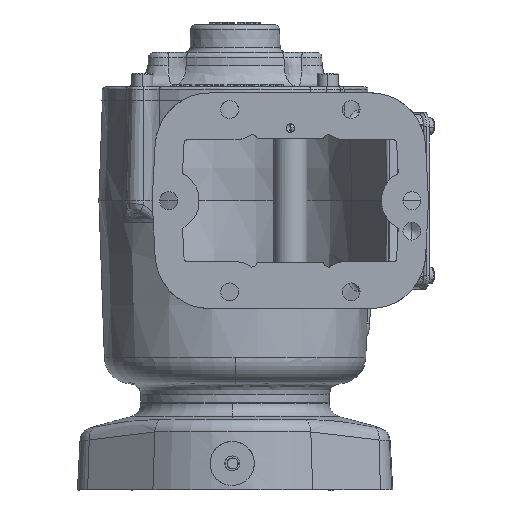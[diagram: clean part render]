
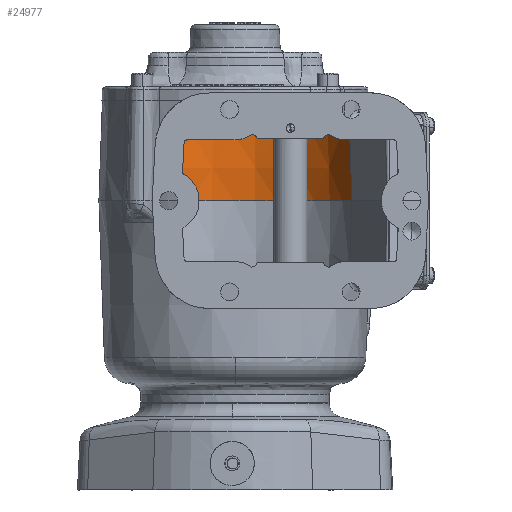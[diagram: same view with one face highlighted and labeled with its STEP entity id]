
A CAD part, front view. The second image highlights one B-rep face of the part: STEP entity #24977.
In plain terms, the highlighted conical face has half-angle 2 degrees and reference radius 71.882 mm.
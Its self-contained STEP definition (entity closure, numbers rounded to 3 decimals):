
#9148 = CARTESIAN_POINT ( 'NONE',  ( -31.75, 84.572, 0. ) ) ;
#9695 = EDGE_CURVE ( 'NONE', #85560, #34427, #14403, .T. ) ;
#14403 = CIRCLE ( 'NONE', #35133, 70.552 ) ;
#18736 = CARTESIAN_POINT ( 'NONE',  ( -31.75, 84.572, 38.1 ) ) ;
#18776 = ORIENTED_EDGE ( 'NONE', *, *, #76619, .T. ) ;
#19164 = FACE_OUTER_BOUND ( 'NONE', #60968, .T. ) ;
#19170 = CARTESIAN_POINT ( 'NONE',  ( 35.358, 110.332, 0. ) ) ;
#23592 = CONICAL_SURFACE ( 'NONE', #48131, 71.882, 0.035 ) ;
#24710 = EDGE_CURVE ( 'NONE', #34427, #105170, #48203, .T. ) ;
#24977 = ADVANCED_FACE ( 'NONE', ( #19164 ), #23592, .F. ) ;
#34427 = VERTEX_POINT ( 'NONE', #47992 ) ;
#35133 = AXIS2_PLACEMENT_3D ( 'NONE', #18736, #35868, #44729 ) ;
#35868 = DIRECTION ( 'NONE',  ( 0., 0., -1. ) ) ;
#36450 = CARTESIAN_POINT ( 'NONE',  ( -31.75, 84.572, 0. ) ) ;
#42346 = CARTESIAN_POINT ( 'NONE',  ( -103.632, 84.572, 0. ) ) ;
#44729 = DIRECTION ( 'NONE',  ( -1., 0., 0. ) ) ;
#46914 = DIRECTION ( 'NONE',  ( -1., 0., 0. ) ) ;
#47992 = CARTESIAN_POINT ( 'NONE',  ( 34.116, 109.855, 38.1 ) ) ;
#48131 = AXIS2_PLACEMENT_3D ( 'NONE', #9148, #110708, #46914 ) ;
#48203 = LINE ( 'NONE', #81919, #114188 ) ;
#55249 = VERTEX_POINT ( 'NONE', #42346 ) ;
#56993 = LINE ( 'NONE', #101890, #101669 ) ;
#60968 = EDGE_LOOP ( 'NONE', ( #112622, #18776, #64963, #89342 ) ) ;
#64756 = DIRECTION ( 'NONE',  ( 0.033, 0.013, -0.999 ) ) ;
#64963 = ORIENTED_EDGE ( 'NONE', *, *, #79913, .T. ) ;
#65986 = AXIS2_PLACEMENT_3D ( 'NONE', #36450, #103139, #109714 ) ;
#68991 = CARTESIAN_POINT ( 'NONE',  ( -102.302, 84.572, 38.1 ) ) ;
#76619 = EDGE_CURVE ( 'NONE', #85560, #55249, #56993, .T. ) ;
#79913 = EDGE_CURVE ( 'NONE', #55249, #105170, #101838, .T. ) ;
#81919 = CARTESIAN_POINT ( 'NONE',  ( 34.737, 110.094, 19.05 ) ) ;
#84761 = DIRECTION ( 'NONE',  ( -0.035, 0., -0.999 ) ) ;
#85560 = VERTEX_POINT ( 'NONE', #68991 ) ;
#89342 = ORIENTED_EDGE ( 'NONE', *, *, #24710, .F. ) ;
#101669 = VECTOR ( 'NONE', #84761, 1000. ) ;
#101838 = CIRCLE ( 'NONE', #65986, 71.882 ) ;
#101890 = CARTESIAN_POINT ( 'NONE',  ( -103.632, 84.572, 0. ) ) ;
#103139 = DIRECTION ( 'NONE',  ( 0., 0., -1. ) ) ;
#105170 = VERTEX_POINT ( 'NONE', #19170 ) ;
#109714 = DIRECTION ( 'NONE',  ( 0.934, 0.358, 0. ) ) ;
#110708 = DIRECTION ( 'NONE',  ( 0., 0., -1. ) ) ;
#112622 = ORIENTED_EDGE ( 'NONE', *, *, #9695, .F. ) ;
#114188 = VECTOR ( 'NONE', #64756, 1000. ) ;
